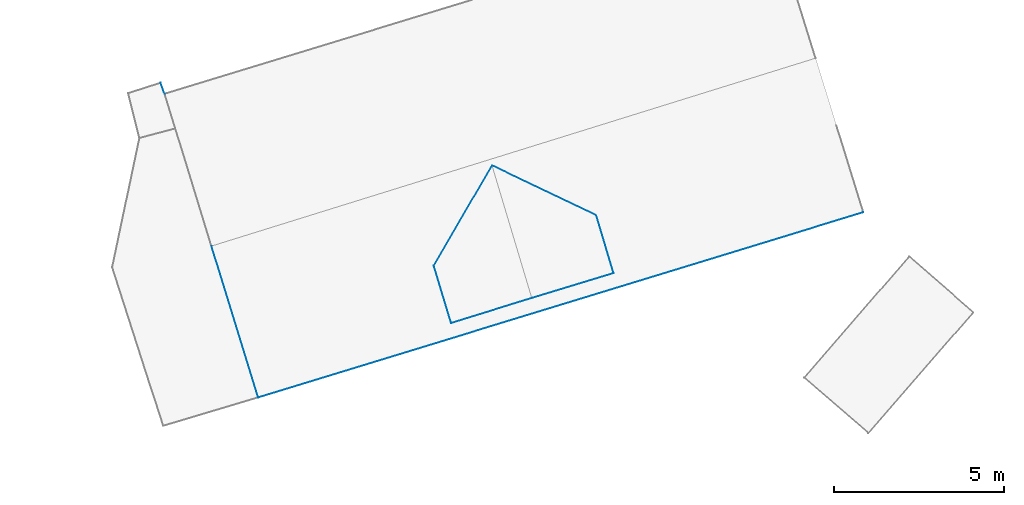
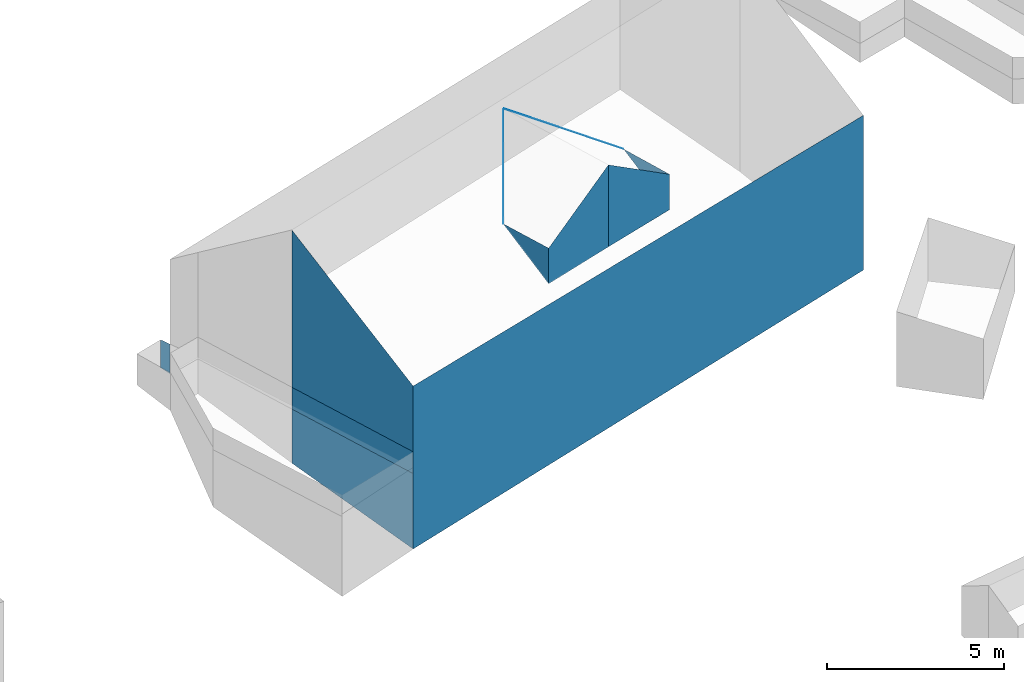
# Not in any storey, part 6 of 57: 13 walls.
"""IFC4 building model written with IfcOpenShell, lengths in metres."""

import ifcopenshell
import ifcopenshell.guid

model = None  # the IFC model being written
_history = None  # IfcOwnerHistory: only IFC2X3 demands one
_inside = {}  # id of a spatial element -> (the spatial element, [elements in it])
_under = {}  # id of a project, library or spatial element -> (it, [spatial elements below it])
_declared = {}  # id of a project -> (the project, [libraries it declares])
_typed = {}  # id of a type object -> (the type object, [elements of that type])
_made_of = {}  # id of a material, layer set ... -> (it, [elements and type objects made of it])


def new_model(schema):
    """Start an empty IFC model of exactly this schema.

    Asked for "IFC4X3", IfcOpenShell would pick the latest addendum, in which some entities
    have other attributes; the version numbers below select the first issue.
    IFC2X3 requires an IfcOwnerHistory on every rooted entity: one is made here for all.
    """
    global model, _history
    if schema == "IFC4X3":
        model = ifcopenshell.file(schema_version=(4, 3, 0, 0))
    else:
        model = ifcopenshell.file(schema=schema)
    _inside.clear()
    _under.clear()
    _declared.clear()
    _typed.clear()
    _made_of.clear()
    _history = None
    if model.schema == "IFC2X3":
        org = make("IfcOrganization", Name="unknown")
        user = make(
            "IfcPersonAndOrganization",
            ThePerson=make("IfcPerson", FamilyName="unknown"),
            TheOrganization=org,
        )
        app = make(
            "IfcApplication",
            ApplicationDeveloper=org,
            Version="unknown",
            ApplicationFullName="unknown",
            ApplicationIdentifier="unknown",
        )
        _history = make(
            "IfcOwnerHistory",
            OwningUser=user,
            OwningApplication=app,
            ChangeAction="ADDED",
            CreationDate=0,
        )
    return model


def make(cls, **values):
    """One entity of the class cls with the attributes given. An attribute that is None is left unset."""
    return model.create_entity(
        cls, **{name: value for name, value in values.items() if value is not None}
    )


def entity(cls, *values):
    """Any entity or typed value of the class cls, its attributes in the order of the schema. None: left unset."""
    e = model.create_entity(cls)
    for i, value in enumerate(values):
        if value is not None:
            e[i] = value
    return e


def rooted(cls, **values):
    """An entity with a GlobalId (a new one), such as an element, a storey or a relation."""
    return make(cls, GlobalId=ifcopenshell.guid.new(), OwnerHistory=_history, **values)


def si_unit(unit_type, name, prefix=None):
    """IfcSIUnit, for example si_unit("LENGTHUNIT", "METRE", prefix="MILLI")."""
    return make("IfcSIUnit", UnitType=unit_type, Prefix=prefix, Name=name)


def converted_unit(unit_type, name, factor, base, dimensions=None, offset=None):
    """IfcConversionBasedUnit, such as the inch: factor (a typed value) times the base unit."""
    return make(
        "IfcConversionBasedUnit"
        if offset is None
        else "IfcConversionBasedUnitWithOffset",
        ConversionOffset=offset,
        Dimensions=None
        if dimensions is None
        else entity("IfcDimensionalExponents", *dimensions),
        UnitType=unit_type,
        Name=name,
        ConversionFactor=make(
            "IfcMeasureWithUnit", ValueComponent=factor, UnitComponent=base
        ),
    )


def assignment(units):
    """IfcUnitAssignment: the units of a project."""
    return None if units is None else make("IfcUnitAssignment", Units=units)


def point(xyz):
    """IfcCartesianPoint."""
    return None if xyz is None else make("IfcCartesianPoint", Coordinates=xyz)


def direction(xyz):
    """IfcDirection."""
    return None if xyz is None else make("IfcDirection", DirectionRatios=xyz)


def frame(location, z_axis=None, x_axis=None):
    """IfcAxis2Placement3D, a coordinate frame: its origin and axes. An axis left out is left unset."""
    return make(
        "IfcAxis2Placement3D",
        Location=point(location),
        Axis=direction(z_axis),
        RefDirection=direction(x_axis),
    )


def origin():
    """The frame at (0, 0, 0) with its axes left unset."""
    return frame((0.0, 0.0, 0.0))


def place(relative_to, where):
    """IfcLocalPlacement: puts the frame where relative to a parent placement (None: the world)."""
    return make(
        "IfcLocalPlacement", PlacementRelTo=relative_to, RelativePlacement=where
    )


def context(
    kind, dimensions, precision=None, world=None, true_north=None, identifier=None
):
    """IfcGeometricRepresentationContext, for example the 3D "Model" context."""
    return make(
        "IfcGeometricRepresentationContext",
        ContextIdentifier=identifier,
        ContextType=kind,
        CoordinateSpaceDimension=dimensions,
        Precision=precision,
        WorldCoordinateSystem=world,
        TrueNorth=true_north,
    )


def subcontext(parent, identifier, kind, view, scale=None):
    """IfcGeometricRepresentationSubContext, for example "Body" below "Model"."""
    return make(
        "IfcGeometricRepresentationSubContext",
        ContextIdentifier=identifier,
        ContextType=kind,
        ParentContext=parent,
        TargetScale=scale,
        TargetView=view,
    )


def project(units=None, contexts=None):
    """IfcProject with its units and contexts."""
    return rooted(
        "IfcProject",
        Name="project",
        RepresentationContexts=contexts,
        UnitsInContext=assignment(units),
    )


def spatial(cls, under=None, at=None, **own):
    """A site, building, storey or space (cls), placed at a placement, below another one or the project."""
    s = rooted(cls, ObjectPlacement=at, **own)
    if under is not None:
        _under.setdefault(under.id(), (under, []))[1].append(s)
    return s


def faces_of(points, faces, orient=None, outer=None):
    """IfcFace entities. A face is a list of loops; a loop is a list of indices into points, from 0.

    orient and outer hold one flag for each loop. By default every Orientation is true, the
    first loop of a face is its IfcFaceOuterBound and the others are IfcFaceBound.
    """
    made = []
    for i, loops in enumerate(faces):
        bounds = []
        for j, loop in enumerate(loops):
            is_outer = j == 0 if outer is None else outer[i][j]
            bounds.append(
                make(
                    "IfcFaceOuterBound" if is_outer else "IfcFaceBound",
                    Bound=make("IfcPolyLoop", Polygon=[points[k] for k in loop]),
                    Orientation=True if orient is None else orient[i][j],
                )
            )
        made.append(make("IfcFace", Bounds=bounds))
    return made


def face_set(faces, orient=None, outer=None):
    """The faces of one IfcConnectedFaceSet. surface_model builds it on its shared points."""
    return ("IfcConnectedFaceSet", faces, orient, outer)


def surface_model(cls, points, shells):
    """IfcFaceBasedSurfaceModel or IfcShellBasedSurfaceModel (cls): surfaces that need not close."""
    shared = [point(p) for p in points]
    made = [make(c, CfsFaces=faces_of(shared, fs, o, b)) for c, fs, o, b in shells]
    if cls == "IfcFaceBasedSurfaceModel":
        return make(cls, FbsmFaces=made)
    return make(cls, SbsmBoundary=made)


def shape(context_of_items, identifier, shape_type, items):
    """IfcShapeRepresentation: the items that make up one representation, for example the "Body"."""
    return make(
        "IfcShapeRepresentation",
        ContextOfItems=context_of_items,
        RepresentationIdentifier=identifier,
        RepresentationType=shape_type,
        Items=items,
    )


def made_of(thing, what):
    """Note that an element or type object is made of a material, layer set ...; save() writes the relation."""
    if what is not None:
        _made_of.setdefault(what.id(), (what, []))[1].append(thing)
    return thing


def element(
    cls,
    number,
    at=None,
    inside=None,
    cuts=None,
    type_object=None,
    material=None,
    context=None,
    identifier="Body",
    shape_type=None,
    held_by="IfcProductDefinitionShape",
    body=None,
    shapes=None,
    **own,
):
    """One element of the class cls, such as IfcWall. Its Tag is "e" and its number.

    at: its placement. inside: the storey or other place that contains it. cuts: it is an
    opening in that element (IfcRelVoidsElement). A single representation is given by context,
    identifier, shape_type and body (its items); several are given by shapes. held_by: the class
    of the entity that holds the representations. save() writes the other relations.
    """
    e = rooted(cls, Tag="e%d" % number, ObjectPlacement=at, **own)
    if body is not None:
        shapes = [shape(context, identifier, shape_type, body)]
    if shapes is not None:
        e.Representation = make(held_by, Representations=shapes)
    if inside is not None:
        _inside.setdefault(inside.id(), (inside, []))[1].append(e)
    if cuts is not None:
        rooted(
            "IfcRelVoidsElement", RelatingBuildingElement=cuts, RelatedOpeningElement=e
        )
    if type_object is not None:
        _typed.setdefault(type_object.id(), (type_object, []))[1].append(e)
    return made_of(e, material)


def aggregate(whole, parts):
    """IfcRelAggregates: a whole, such as a stair, and the parts it consists of."""
    return rooted("IfcRelAggregates", RelatingObject=whole, RelatedObjects=parts)


def save(model, path):
    """Write the relations noted so far, then the file.

    IfcRelAggregates (storeys below a building ...), IfcRelContainedInSpatialStructure (elements
    in a storey), IfcRelDefinesByType, IfcRelAssociatesMaterial and IfcRelDeclares: one each for
    every whole, place, type object, material and project.
    """
    for whole, parts in _under.values():
        aggregate(whole, parts)
    for where, things in _inside.values():
        rooted(
            "IfcRelContainedInSpatialStructure",
            RelatedElements=things,
            RelatingStructure=where,
        )
    for kind, things in _typed.values():
        rooted("IfcRelDefinesByType", RelatedObjects=things, RelatingType=kind)
    for what, things in _made_of.values():
        rooted("IfcRelAssociatesMaterial", RelatedObjects=things, RelatingMaterial=what)
    for by, libraries in _declared.values():
        rooted("IfcRelDeclares", RelatingContext=by, RelatedDefinitions=libraries)
    model.write(path)


model = new_model("IFC4")

# Units and contexts
model_context = context("Model", 3, precision=1e-05, world=origin())
body_context = subcontext(model_context, "Body", "Model", "MODEL_VIEW")
ifc_project = project(units=[converted_unit("PLANEANGLEUNIT", "DEGREE", entity("IfcRatioMeasure", 0.0174532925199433), si_unit("PLANEANGLEUNIT", "RADIAN"), dimensions=[0, 0, 0, 0, 0, 0, 0]), si_unit("AREAUNIT", "SQUARE_METRE"), si_unit("LENGTHUNIT", "METRE")], contexts=[model_context])

# Site, building
site_placement = place(None, origin())
site = spatial("IfcSite", under=ifc_project, at=site_placement, Name="_site")
building_1_placement = place(site_placement, origin())
building_1 = spatial("IfcBuilding", under=site, at=building_1_placement, Name="_building")

# Walls
wall_1_placement = place(building_1_placement, origin())
element("IfcWall", 1, at=wall_1_placement, inside=building_1, Name="Wall", PredefinedType="NOTDEFINED", context=body_context, shape_type="SurfaceModel", body=[
    surface_model("IfcFaceBasedSurfaceModel", [(132.25, 111.657, 120.386), (135.318, 110.194, 118.793), (132.25, 111.657, 120.366)], [face_set([[[0, 1, 2]]])]),
])
wall_2_placement = place(building_1_placement, origin())
element("IfcWall", 2, at=wall_2_placement, inside=building_1, Name="Wall", PredefinedType="NOTDEFINED", context=body_context, shape_type="SurfaceModel", body=[
    surface_model("IfcFaceBasedSurfaceModel", [(122.501, 114.087, 114.36), (122.623, 113.763, 114.36), (122.623, 113.763, 113.338), (122.501, 114.087, 113.396)], [face_set([[[0, 1, 2, 3]]])]),
])
wall_3_placement = place(building_1_placement, origin())
element("IfcWall", 3, at=wall_3_placement, inside=building_1, Name="Wall", PredefinedType="NOTDEFINED", context=body_context, shape_type="SurfaceModel", body=[
    surface_model("IfcFaceBasedSurfaceModel", [(143.174, 110.28, 117.15), (125.376, 104.833, 117.37), (125.376, 104.833, 111.765), (143.174, 110.28, 111.828)], [face_set([[[0, 1, 2, 3]]])]),
])
wall_4_placement = place(building_1_placement, origin())
element("IfcWall", 4, at=wall_4_placement, inside=building_1, Name="Wall", PredefinedType="NOTDEFINED", context=body_context, shape_type="SurfaceModel", body=[
    surface_model("IfcFaceBasedSurfaceModel", [(131.051, 107.022, 118.8), (130.54, 108.705, 118.8), (130.54, 108.705, 118.796), (131.051, 107.022, 117.574)], [face_set([[[0, 1, 2, 3]]])]),
])
wall_5_placement = place(building_1_placement, origin())
element("IfcWall", 5, at=wall_5_placement, inside=building_1, Name="Wall", PredefinedType="NOTDEFINED", context=body_context, shape_type="SurfaceModel", body=[
    surface_model("IfcFaceBasedSurfaceModel", [(135.828, 108.491, 118.78), (133.419, 107.757, 120.39), (133.419, 107.757, 117.57), (135.828, 108.491, 117.558)], [face_set([[[0, 1, 2, 3]]])]),
])
wall_6_placement = place(building_1_placement, origin())
element("IfcWall", 6, at=wall_6_placement, inside=building_1, Name="Wall", PredefinedType="NOTDEFINED", context=body_context, shape_type="SurfaceModel", body=[
    surface_model("IfcFaceBasedSurfaceModel", [(135.318, 110.194, 118.793), (135.828, 108.491, 118.78), (135.828, 108.491, 117.558)], [face_set([[[0, 1, 2]]])]),
])
wall_7_placement = place(building_1_placement, origin())
element("IfcWall", 7, at=wall_7_placement, inside=building_1, Name="Wall", PredefinedType="NOTDEFINED", context=body_context, shape_type="SurfaceModel", body=[
    surface_model("IfcFaceBasedSurfaceModel", [(124.001, 109.289, 114.36), (125.376, 104.833, 114.36), (125.376, 104.833, 111.765), (124.001, 109.289, 112.498)], [face_set([[[0, 1, 2, 3]]])]),
])
wall_8_placement = place(building_1_placement, origin())
element("IfcWall", 8, at=wall_8_placement, inside=building_1, Name="Wall", PredefinedType="NOTDEFINED", context=body_context, shape_type="SurfaceModel", body=[
    surface_model("IfcFaceBasedSurfaceModel", [(125.376, 104.833, 117.37), (124.001, 109.289, 120.52), (124.001, 109.289, 114.36), (125.376, 104.833, 114.36)], [face_set([[[0, 1, 2, 3]]])]),
])
wall_9_placement = place(building_1_placement, origin())
element("IfcWall", 9, at=wall_9_placement, inside=building_1, Name="Wall", PredefinedType="NOTDEFINED", context=body_context, shape_type="SurfaceModel", body=[
    surface_model("IfcFaceBasedSurfaceModel", [(130.54, 108.705, 118.8), (132.25, 111.657, 120.386), (132.25, 111.657, 120.366), (130.54, 108.705, 118.796)], [face_set([[[0, 1, 2, 3]]])]),
])
wall_10_placement = place(building_1_placement, origin())
element("IfcWall", 10, at=wall_10_placement, inside=building_1, Name="Wall", PredefinedType="NOTDEFINED", context=body_context, shape_type="SurfaceModel", body=[
    surface_model("IfcFaceBasedSurfaceModel", [(133.419, 107.757, 120.39), (131.051, 107.022, 118.8), (131.051, 107.022, 117.574), (133.419, 107.757, 117.57)], [face_set([[[0, 1, 2, 3]]])]),
])

# Building
building_2_placement = place(site_placement, origin())
building_2 = spatial("IfcBuilding", under=site, at=building_2_placement, Name="_building")

# Walls
wall_11_placement = place(building_2_placement, origin())
element("IfcWall", 11, at=wall_11_placement, inside=building_2, Name="Wall", PredefinedType="NOTDEFINED", context=body_context, shape_type="SurfaceModel", body=[
    surface_model("IfcFaceBasedSurfaceModel", [(124.001, 109.289, 114.491), (125.376, 104.833, 114.57), (125.376, 104.833, 111.765), (124.001, 109.289, 112.498)], [face_set([[[0, 1, 2, 3]]])]),
])
for number, where, name in (
    (12, (0.0, 0.0, 0.0), "Wall"),
    (13, (0.0, 0.0, 0.0), "Wall"),
):
    element("IfcWall", number, at=place(building_2_placement, frame(where)), inside=building_2, Name=name, PredefinedType="NOTDEFINED", context=body_context, shape_type="SurfaceModel", body=[
        surface_model("IfcFaceBasedSurfaceModel", [(125.376, 104.833, 114.36), (124.001, 109.289, 114.36), (124.001, 109.289, 115.11), (125.376, 104.833, 115.11)], [face_set([[[0, 1, 2, 3]]])]),
    ])

save(model, "model.ifc")
